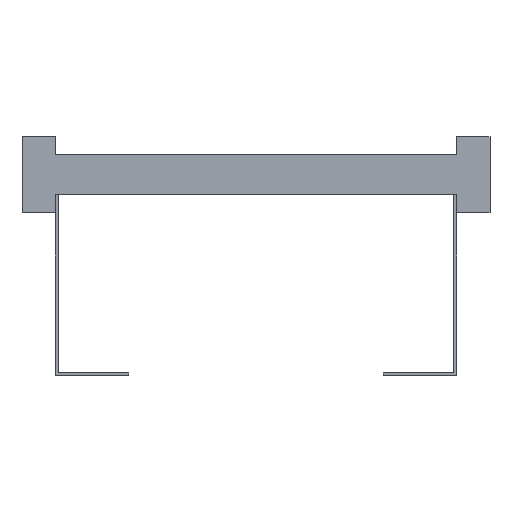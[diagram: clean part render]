
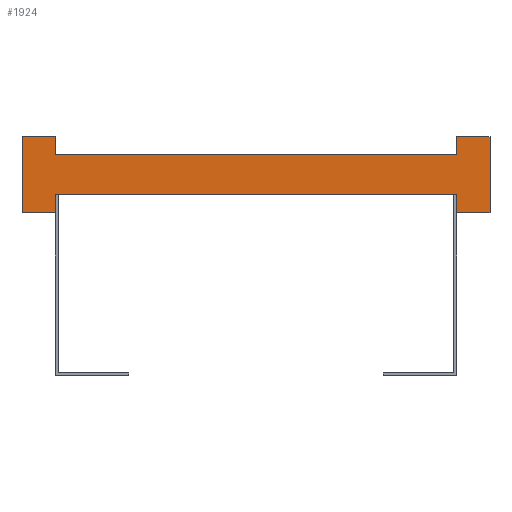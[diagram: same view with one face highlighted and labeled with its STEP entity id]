
A CAD part, front view. The second image highlights one B-rep face of the part: STEP entity #1924.
In plain terms, the highlighted planar face has unit normal (0, -1, 0).
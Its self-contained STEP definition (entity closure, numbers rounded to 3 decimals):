
#113=DIRECTION('',(0.,0.,1.));
#114=VECTOR('',#113,13.5);
#115=CARTESIAN_POINT('',(150.,0.,-28.5));
#116=LINE('',#115,#114);
#117=DIRECTION('',(0.,0.,-1.));
#118=VECTOR('',#117,13.5);
#119=CARTESIAN_POINT('',(-150.,0.,-15.));
#120=LINE('',#119,#118);
#121=DIRECTION('',(-1.,0.,0.));
#122=VECTOR('',#121,25.);
#123=CARTESIAN_POINT('',(-150.,0.,-28.5));
#124=LINE('',#123,#122);
#125=DIRECTION('',(0.,0.,1.));
#126=VECTOR('',#125,57.);
#127=CARTESIAN_POINT('',(-175.,0.,-28.5));
#128=LINE('',#127,#126);
#129=DIRECTION('',(1.,0.,0.));
#130=VECTOR('',#129,25.);
#131=CARTESIAN_POINT('',(-175.,0.,28.5));
#132=LINE('',#131,#130);
#133=DIRECTION('',(0.,0.,-1.));
#134=VECTOR('',#133,13.5);
#135=CARTESIAN_POINT('',(-150.,0.,28.5));
#136=LINE('',#135,#134);
#137=DIRECTION('',(0.,0.,1.));
#138=VECTOR('',#137,13.5);
#139=CARTESIAN_POINT('',(150.,0.,15.));
#140=LINE('',#139,#138);
#141=DIRECTION('',(1.,0.,0.));
#142=VECTOR('',#141,25.);
#143=CARTESIAN_POINT('',(150.,0.,28.5));
#144=LINE('',#143,#142);
#145=DIRECTION('',(0.,0.,-1.));
#146=VECTOR('',#145,57.);
#147=CARTESIAN_POINT('',(175.,0.,28.5));
#148=LINE('',#147,#146);
#149=DIRECTION('',(-1.,0.,0.));
#150=VECTOR('',#149,25.);
#151=CARTESIAN_POINT('',(175.,0.,-28.5));
#152=LINE('',#151,#150);
#1441=DIRECTION('',(1.,0.,0.));
#1442=VECTOR('',#1441,300.);
#1443=CARTESIAN_POINT('',(-150.,0.,-15.));
#1444=LINE('',#1443,#1442);
#1453=DIRECTION('',(1.,0.,0.));
#1454=VECTOR('',#1453,300.);
#1455=CARTESIAN_POINT('',(-150.,0.,15.));
#1456=LINE('',#1455,#1454);
#1457=CARTESIAN_POINT('',(-175.,0.,28.5));
#1458=CARTESIAN_POINT('',(-150.,0.,28.5));
#1459=VERTEX_POINT('',#1457);
#1460=VERTEX_POINT('',#1458);
#1461=CARTESIAN_POINT('',(-150.,0.,-28.5));
#1462=CARTESIAN_POINT('',(-175.,0.,-28.5));
#1463=VERTEX_POINT('',#1461);
#1464=VERTEX_POINT('',#1462);
#1465=CARTESIAN_POINT('',(175.,0.,28.5));
#1466=CARTESIAN_POINT('',(175.,0.,-28.5));
#1467=VERTEX_POINT('',#1465);
#1468=VERTEX_POINT('',#1466);
#1469=CARTESIAN_POINT('',(150.,0.,-28.5));
#1470=VERTEX_POINT('',#1469);
#1471=CARTESIAN_POINT('',(150.,0.,28.5));
#1472=VERTEX_POINT('',#1471);
#1489=CARTESIAN_POINT('',(-150.,0.,-15.));
#1491=VERTEX_POINT('',#1489);
#1493=CARTESIAN_POINT('',(-150.,0.,15.));
#1495=VERTEX_POINT('',#1493);
#1497=CARTESIAN_POINT('',(150.,0.,-15.));
#1499=VERTEX_POINT('',#1497);
#1501=CARTESIAN_POINT('',(150.,0.,15.));
#1503=VERTEX_POINT('',#1501);
#1893=CARTESIAN_POINT('',(0.,0.,0.));
#1894=DIRECTION('',(0.,1.,0.));
#1895=DIRECTION('',(1.,0.,0.));
#1896=AXIS2_PLACEMENT_3D('',#1893,#1894,#1895);
#1897=PLANE('',#1896);
#1899=ORIENTED_EDGE('',*,*,#1898,.T.);
#1901=ORIENTED_EDGE('',*,*,#1900,.F.);
#1903=ORIENTED_EDGE('',*,*,#1902,.T.);
#1905=ORIENTED_EDGE('',*,*,#1904,.T.);
#1907=ORIENTED_EDGE('',*,*,#1906,.T.);
#1909=ORIENTED_EDGE('',*,*,#1908,.T.);
#1911=ORIENTED_EDGE('',*,*,#1910,.T.);
#1913=ORIENTED_EDGE('',*,*,#1912,.T.);
#1915=ORIENTED_EDGE('',*,*,#1914,.T.);
#1917=ORIENTED_EDGE('',*,*,#1916,.T.);
#1919=ORIENTED_EDGE('',*,*,#1918,.T.);
#1921=ORIENTED_EDGE('',*,*,#1920,.T.);
#1922=EDGE_LOOP('',(#1899,#1901,#1903,#1905,#1907,#1909,#1911,#1913,#1915,#1917,
#1919,#1921));
#1923=FACE_OUTER_BOUND('',#1922,.F.);
#1898=EDGE_CURVE('',#1470,#1499,#116,.T.);
#1900=EDGE_CURVE('',#1491,#1499,#1444,.T.);
#1902=EDGE_CURVE('',#1491,#1463,#120,.T.);
#1904=EDGE_CURVE('',#1463,#1464,#124,.T.);
#1906=EDGE_CURVE('',#1464,#1459,#128,.T.);
#1908=EDGE_CURVE('',#1459,#1460,#132,.T.);
#1910=EDGE_CURVE('',#1460,#1495,#136,.T.);
#1912=EDGE_CURVE('',#1495,#1503,#1456,.T.);
#1914=EDGE_CURVE('',#1503,#1472,#140,.T.);
#1916=EDGE_CURVE('',#1472,#1467,#144,.T.);
#1918=EDGE_CURVE('',#1467,#1468,#148,.T.);
#1920=EDGE_CURVE('',#1468,#1470,#152,.T.);
#1924=ADVANCED_FACE('',(#1923),#1897,.F.);
